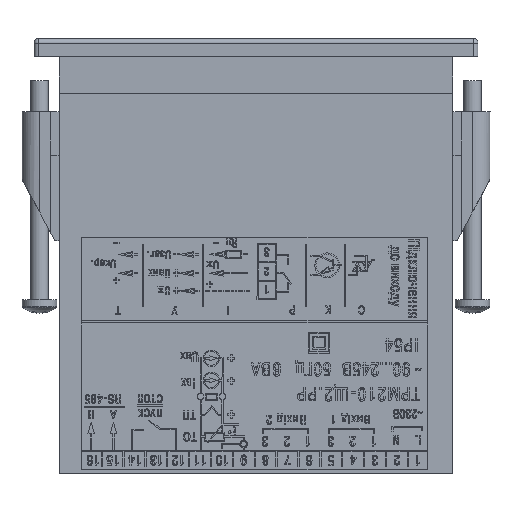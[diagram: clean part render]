
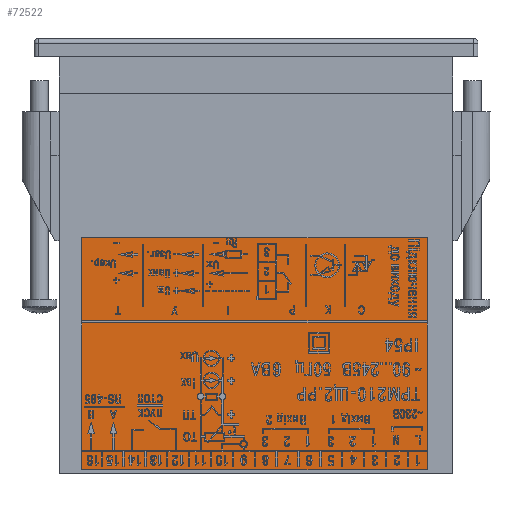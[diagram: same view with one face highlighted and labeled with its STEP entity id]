
A CAD part, front view. The second image highlights one B-rep face of the part: STEP entity #72522.
In plain terms, the highlighted planar face has unit normal (0, -1, 0).
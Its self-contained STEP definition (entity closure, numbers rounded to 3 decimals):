
#4545 = VECTOR ( 'NONE', #183662, 1000. ) ;
#5913 = VECTOR ( 'NONE', #80515, 1000. ) ;
#12457 = ORIENTED_EDGE ( 'NONE', *, *, #39891, .T. ) ;
#17599 = EDGE_CURVE ( 'NONE', #169443, #205592, #213772, .T. ) ;
#17847 = VECTOR ( 'NONE', #31701, 1000. ) ;
#26178 = CARTESIAN_POINT ( 'NONE',  ( -39.862, -20.6, -45.5 ) ) ;
#29352 = CARTESIAN_POINT ( 'NONE',  ( -39.862, -20.6, -45.5 ) ) ;
#31701 = DIRECTION ( 'NONE',  ( 0., 0., 1. ) ) ;
#39891 = EDGE_CURVE ( 'NONE', #205592, #132854, #100014, .T. ) ;
#48120 = ORIENTED_EDGE ( 'NONE', *, *, #181844, .T. ) ;
#48543 = FACE_OUTER_BOUND ( 'NONE', #63037, .T. ) ;
#49079 = DIRECTION ( 'NONE',  ( 0., 0., -1. ) ) ;
#53012 = VECTOR ( 'NONE', #49079, 1000. ) ;
#53573 = EDGE_CURVE ( 'NONE', #103495, #169443, #65237, .T. ) ;
#57778 = ORIENTED_EDGE ( 'NONE', *, *, #17599, .T. ) ;
#61347 = PLANE ( 'NONE',  #97075 ) ;
#62391 = CARTESIAN_POINT ( 'NONE',  ( -39.862, -20.6, -45.5 ) ) ;
#63037 = EDGE_LOOP ( 'NONE', ( #12457, #48120, #133484, #57778 ) ) ;
#65237 = LINE ( 'NONE', #29352, #53012 ) ;
#72522 = ADVANCED_FACE ( 'NONE', ( #48543 ), #61347, .T. ) ;
#78607 = DIRECTION ( 'NONE',  ( 0., 0., -1. ) ) ;
#80515 = DIRECTION ( 'NONE',  ( -1., 0., 0. ) ) ;
#97075 = AXIS2_PLACEMENT_3D ( 'NONE', #204969, #170200, #78607 ) ;
#100014 = LINE ( 'NONE', #190506, #17847 ) ;
#103495 = VERTEX_POINT ( 'NONE', #62391 ) ;
#111215 = CARTESIAN_POINT ( 'NONE',  ( -39.862, -20.6, -98.5 ) ) ;
#111646 = CARTESIAN_POINT ( 'NONE',  ( -39.862, -20.6, -98.5 ) ) ;
#132854 = VERTEX_POINT ( 'NONE', #169479 ) ;
#133484 = ORIENTED_EDGE ( 'NONE', *, *, #53573, .T. ) ;
#169443 = VERTEX_POINT ( 'NONE', #111215 ) ;
#169479 = CARTESIAN_POINT ( 'NONE',  ( 39.138, -20.6, -45.5 ) ) ;
#170200 = DIRECTION ( 'NONE',  ( 0., -1., 0. ) ) ;
#181844 = EDGE_CURVE ( 'NONE', #132854, #103495, #202350, .T. ) ;
#183662 = DIRECTION ( 'NONE',  ( 1., 0., 0. ) ) ;
#187189 = CARTESIAN_POINT ( 'NONE',  ( 39.138, -20.6, -98.5 ) ) ;
#190506 = CARTESIAN_POINT ( 'NONE',  ( 39.138, -20.6, -45.5 ) ) ;
#202350 = LINE ( 'NONE', #26178, #5913 ) ;
#204969 = CARTESIAN_POINT ( 'NONE',  ( 0., -20.6, 0. ) ) ;
#205592 = VERTEX_POINT ( 'NONE', #187189 ) ;
#213772 = LINE ( 'NONE', #111646, #4545 ) ;
